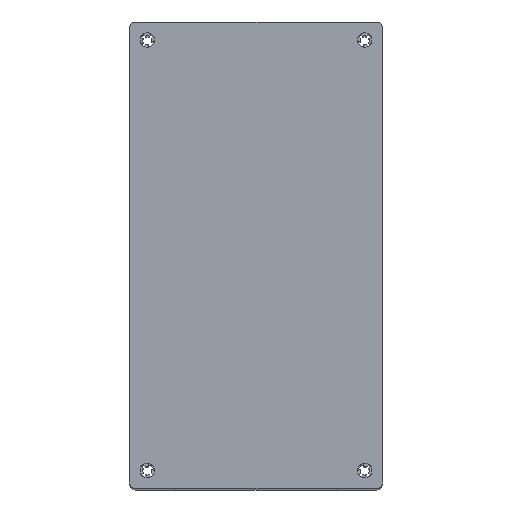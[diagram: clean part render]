
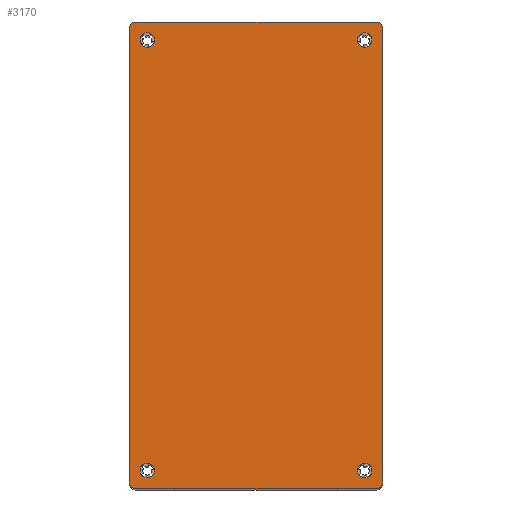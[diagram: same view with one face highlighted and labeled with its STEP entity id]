
A CAD part, top view. The second image highlights one B-rep face of the part: STEP entity #3170.
In plain terms, the highlighted planar face has unit normal (0, 0, 1) as drawn and (0, -1, 0) by its records, which use the part's own axes.
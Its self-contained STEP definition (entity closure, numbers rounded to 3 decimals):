
#187 = LINE ( 'NONE', #3223, #3609 ) ;
#230 = DIRECTION ( 'NONE',  ( 0., -1., 0. ) ) ;
#238 = ORIENTED_EDGE ( 'NONE', *, *, #4887, .T. ) ;
#273 = VERTEX_POINT ( 'NONE', #1849 ) ;
#284 = CIRCLE ( 'NONE', #1803, 1.5 ) ;
#379 = CARTESIAN_POINT ( 'NONE',  ( 47.5, 0., 24. ) ) ;
#449 = VERTEX_POINT ( 'NONE', #1499 ) ;
#599 = EDGE_CURVE ( 'NONE', #273, #273, #3504, .T. ) ;
#684 = DIRECTION ( 'NONE',  ( 0., 0., -1. ) ) ;
#727 = EDGE_LOOP ( 'NONE', ( #4582 ) ) ;
#754 = AXIS2_PLACEMENT_3D ( 'NONE', #1484, #4552, #3058 ) ;
#786 = VERTEX_POINT ( 'NONE', #1278 ) ;
#965 = DIRECTION ( 'NONE',  ( 0., 0., 1. ) ) ;
#1016 = DIRECTION ( 'NONE',  ( 0., 0., -1. ) ) ;
#1071 = PLANE ( 'NONE',  #4858 ) ;
#1127 = EDGE_CURVE ( 'NONE', #2497, #3733, #2178, .T. ) ;
#1162 = CARTESIAN_POINT ( 'NONE',  ( 50., 0., -28. ) ) ;
#1174 = CARTESIAN_POINT ( 'NONE',  ( -50., 0., 26.5 ) ) ;
#1220 = FACE_BOUND ( 'NONE', #3731, .T. ) ;
#1231 = DIRECTION ( 'NONE',  ( 0., 0., -1. ) ) ;
#1240 = CARTESIAN_POINT ( 'NONE',  ( -51.5, 0., -28. ) ) ;
#1278 = CARTESIAN_POINT ( 'NONE',  ( -51.5, 0., -26.5 ) ) ;
#1340 = DIRECTION ( 'NONE',  ( 0., 0., -1. ) ) ;
#1427 = AXIS2_PLACEMENT_3D ( 'NONE', #379, #2692, #3486 ) ;
#1464 = FACE_BOUND ( 'NONE', #3056, .T. ) ;
#1476 = CARTESIAN_POINT ( 'NONE',  ( -50., 0., -26.5 ) ) ;
#1484 = CARTESIAN_POINT ( 'NONE',  ( -47.5, 0., -24. ) ) ;
#1499 = CARTESIAN_POINT ( 'NONE',  ( -50., 0., -28. ) ) ;
#1549 = EDGE_CURVE ( 'NONE', #786, #449, #284, .T. ) ;
#1561 = CARTESIAN_POINT ( 'NONE',  ( -47.5, 0., -25.6 ) ) ;
#1585 = CARTESIAN_POINT ( 'NONE',  ( -51.5, 0., 28. ) ) ;
#1627 = ORIENTED_EDGE ( 'NONE', *, *, #3077, .F. ) ;
#1638 = FACE_OUTER_BOUND ( 'NONE', #3758, .T. ) ;
#1644 = EDGE_LOOP ( 'NONE', ( #3363 ) ) ;
#1803 = AXIS2_PLACEMENT_3D ( 'NONE', #1476, #2208, #2163 ) ;
#1804 = EDGE_CURVE ( 'NONE', #2189, #2189, #3931, .T. ) ;
#1849 = CARTESIAN_POINT ( 'NONE',  ( 47.5, 0., 25.6 ) ) ;
#1886 = CIRCLE ( 'NONE', #3519, 1.6 ) ;
#1949 = DIRECTION ( 'NONE',  ( 0., -1., 0. ) ) ;
#1998 = FACE_BOUND ( 'NONE', #727, .T. ) ;
#2119 = VECTOR ( 'NONE', #1231, 1000. ) ;
#2147 = DIRECTION ( 'NONE',  ( 0., -1., 0. ) ) ;
#2163 = DIRECTION ( 'NONE',  ( 0., 0., -1. ) ) ;
#2166 = CARTESIAN_POINT ( 'NONE',  ( 50., 0., -26.5 ) ) ;
#2168 = ORIENTED_EDGE ( 'NONE', *, *, #4272, .F. ) ;
#2178 = CIRCLE ( 'NONE', #2356, 1.5 ) ;
#2189 = VERTEX_POINT ( 'NONE', #4522 ) ;
#2208 = DIRECTION ( 'NONE',  ( 0., -1., 0. ) ) ;
#2286 = VECTOR ( 'NONE', #2399, 1000. ) ;
#2296 = CIRCLE ( 'NONE', #754, 1.6 ) ;
#2330 = AXIS2_PLACEMENT_3D ( 'NONE', #2166, #2147, #1016 ) ;
#2343 = CARTESIAN_POINT ( 'NONE',  ( 47.5, 0., -25.6 ) ) ;
#2356 = AXIS2_PLACEMENT_3D ( 'NONE', #1174, #1949, #2722 ) ;
#2399 = DIRECTION ( 'NONE',  ( 1., 0., 0. ) ) ;
#2474 = LINE ( 'NONE', #1585, #2119 ) ;
#2497 = VERTEX_POINT ( 'NONE', #4051 ) ;
#2520 = CARTESIAN_POINT ( 'NONE',  ( 51.5, 0., 26.5 ) ) ;
#2535 = CIRCLE ( 'NONE', #2330, 1.5 ) ;
#2566 = EDGE_CURVE ( 'NONE', #4906, #3177, #3521, .T. ) ;
#2586 = ORIENTED_EDGE ( 'NONE', *, *, #1127, .T. ) ;
#2692 = DIRECTION ( 'NONE',  ( 0., 1., 0. ) ) ;
#2709 = LINE ( 'NONE', #3299, #2954 ) ;
#2722 = DIRECTION ( 'NONE',  ( 0., 0., -1. ) ) ;
#2769 = FACE_BOUND ( 'NONE', #1644, .T. ) ;
#2782 = DIRECTION ( 'NONE',  ( 1., 0., 0. ) ) ;
#2873 = CARTESIAN_POINT ( 'NONE',  ( -51.5, 0., 26.5 ) ) ;
#2893 = AXIS2_PLACEMENT_3D ( 'NONE', #3221, #230, #4799 ) ;
#2954 = VECTOR ( 'NONE', #2782, 1000. ) ;
#2965 = DIRECTION ( 'NONE',  ( 0., -1., 0. ) ) ;
#3056 = EDGE_LOOP ( 'NONE', ( #4604 ) ) ;
#3058 = DIRECTION ( 'NONE',  ( 0., 0., -1. ) ) ;
#3077 = EDGE_CURVE ( 'NONE', #2497, #3177, #2709, .T. ) ;
#3170 = ADVANCED_FACE ( 'NONE', ( #1464, #1998, #1220, #2769, #1638 ), #1071, .T. ) ;
#3177 = VERTEX_POINT ( 'NONE', #3337 ) ;
#3221 = CARTESIAN_POINT ( 'NONE',  ( 50., 0., 26.5 ) ) ;
#3222 = ORIENTED_EDGE ( 'NONE', *, *, #3503, .T. ) ;
#3223 = CARTESIAN_POINT ( 'NONE',  ( 51.5, 0., 28. ) ) ;
#3299 = CARTESIAN_POINT ( 'NONE',  ( -51.5, 0., 28. ) ) ;
#3330 = CARTESIAN_POINT ( 'NONE',  ( 47.5, 0., -24. ) ) ;
#3337 = CARTESIAN_POINT ( 'NONE',  ( 50., 0., 28. ) ) ;
#3343 = EDGE_CURVE ( 'NONE', #3863, #3863, #2296, .T. ) ;
#3348 = DIRECTION ( 'NONE',  ( 0., 0., -1. ) ) ;
#3363 = ORIENTED_EDGE ( 'NONE', *, *, #599, .T. ) ;
#3365 = VERTEX_POINT ( 'NONE', #1162 ) ;
#3443 = ORIENTED_EDGE ( 'NONE', *, *, #4115, .T. ) ;
#3486 = DIRECTION ( 'NONE',  ( 0., 0., 1. ) ) ;
#3503 = EDGE_CURVE ( 'NONE', #3733, #786, #2474, .T. ) ;
#3504 = CIRCLE ( 'NONE', #1427, 1.6 ) ;
#3519 = AXIS2_PLACEMENT_3D ( 'NONE', #3330, #3672, #3348 ) ;
#3521 = CIRCLE ( 'NONE', #2893, 1.5 ) ;
#3609 = VECTOR ( 'NONE', #1340, 1000. ) ;
#3672 = DIRECTION ( 'NONE',  ( 0., -1., 0. ) ) ;
#3731 = EDGE_LOOP ( 'NONE', ( #4917 ) ) ;
#3733 = VERTEX_POINT ( 'NONE', #2873 ) ;
#3758 = EDGE_LOOP ( 'NONE', ( #1627, #2586, #3222, #4280, #3443, #238, #2168, #4466 ) ) ;
#3833 = CARTESIAN_POINT ( 'NONE',  ( 51.5, 0., -26.5 ) ) ;
#3863 = VERTEX_POINT ( 'NONE', #1561 ) ;
#3931 = CIRCLE ( 'NONE', #4783, 1.6 ) ;
#4001 = VERTEX_POINT ( 'NONE', #3833 ) ;
#4051 = CARTESIAN_POINT ( 'NONE',  ( -50., 0., 28. ) ) ;
#4115 = EDGE_CURVE ( 'NONE', #449, #3365, #4555, .T. ) ;
#4227 = VERTEX_POINT ( 'NONE', #2343 ) ;
#4272 = EDGE_CURVE ( 'NONE', #4906, #4001, #187, .T. ) ;
#4280 = ORIENTED_EDGE ( 'NONE', *, *, #1549, .T. ) ;
#4466 = ORIENTED_EDGE ( 'NONE', *, *, #2566, .T. ) ;
#4480 = CARTESIAN_POINT ( 'NONE',  ( 0., 0., 0. ) ) ;
#4522 = CARTESIAN_POINT ( 'NONE',  ( -47.5, 0., 25.6 ) ) ;
#4552 = DIRECTION ( 'NONE',  ( 0., 1., 0. ) ) ;
#4555 = LINE ( 'NONE', #1240, #2286 ) ;
#4582 = ORIENTED_EDGE ( 'NONE', *, *, #3343, .T. ) ;
#4604 = ORIENTED_EDGE ( 'NONE', *, *, #1804, .F. ) ;
#4764 = DIRECTION ( 'NONE',  ( 0., -1., 0. ) ) ;
#4783 = AXIS2_PLACEMENT_3D ( 'NONE', #4828, #4764, #965 ) ;
#4799 = DIRECTION ( 'NONE',  ( 0., 0., -1. ) ) ;
#4828 = CARTESIAN_POINT ( 'NONE',  ( -47.5, 0., 24. ) ) ;
#4843 = EDGE_CURVE ( 'NONE', #4227, #4227, #1886, .T. ) ;
#4858 = AXIS2_PLACEMENT_3D ( 'NONE', #4480, #2965, #684 ) ;
#4887 = EDGE_CURVE ( 'NONE', #3365, #4001, #2535, .T. ) ;
#4906 = VERTEX_POINT ( 'NONE', #2520 ) ;
#4917 = ORIENTED_EDGE ( 'NONE', *, *, #4843, .F. ) ;
